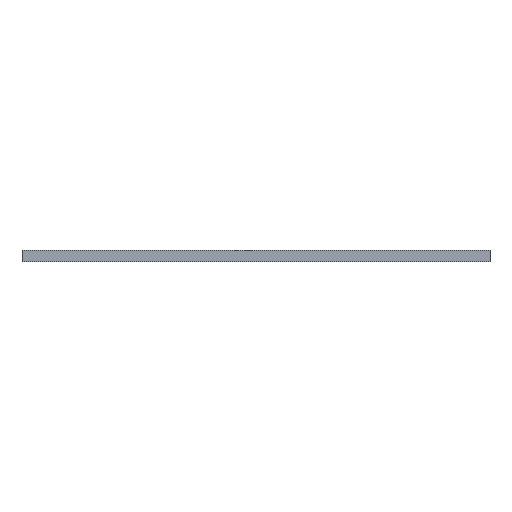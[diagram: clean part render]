
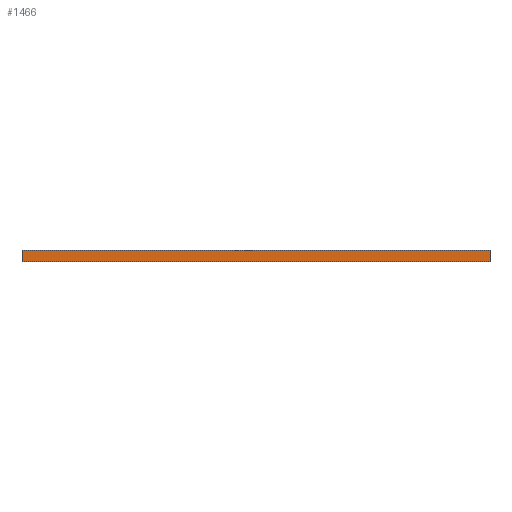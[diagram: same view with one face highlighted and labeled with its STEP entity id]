
A CAD part, left-side view. The second image highlights one B-rep face of the part: STEP entity #1466.
In plain terms, the highlighted planar face has unit normal (-1, 0, 0).
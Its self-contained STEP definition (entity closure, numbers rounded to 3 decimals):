
#133=PLANE('',#1667);
#202=FACE_OUTER_BOUND('',#275,.T.);
#275=EDGE_LOOP('',(#1210,#1211,#1212,#1213));
#450=LINE('',#2482,#521);
#451=LINE('',#2484,#522);
#452=LINE('',#2486,#523);
#453=LINE('',#2487,#524);
#521=VECTOR('',#2098,10.);
#522=VECTOR('',#2099,10.);
#523=VECTOR('',#2100,10.);
#524=VECTOR('',#2101,10.);
#769=VERTEX_POINT('',#2480);
#770=VERTEX_POINT('',#2481);
#771=VERTEX_POINT('',#2483);
#772=VERTEX_POINT('',#2485);
#954=EDGE_CURVE('',#769,#770,#450,.T.);
#955=EDGE_CURVE('',#770,#771,#451,.T.);
#956=EDGE_CURVE('',#772,#771,#452,.T.);
#957=EDGE_CURVE('',#769,#772,#453,.T.);
#1210=ORIENTED_EDGE('',*,*,#954,.T.);
#1211=ORIENTED_EDGE('',*,*,#955,.T.);
#1212=ORIENTED_EDGE('',*,*,#956,.F.);
#1213=ORIENTED_EDGE('',*,*,#957,.F.);
#1466=ADVANCED_FACE('',(#202),#133,.T.);
#1667=AXIS2_PLACEMENT_3D('',#2479,#2096,#2097);
#2096=DIRECTION('center_axis',(-1.,0.,0.));
#2097=DIRECTION('ref_axis',(0.,1.,0.));
#2098=DIRECTION('',(0.,1.,0.));
#2099=DIRECTION('',(0.,0.,-1.));
#2100=DIRECTION('',(0.,1.,0.));
#2101=DIRECTION('',(0.,0.,-1.));
#2479=CARTESIAN_POINT('Origin',(-108.,-100.,0.));
#2480=CARTESIAN_POINT('',(-108.,-100.,0.));
#2481=CARTESIAN_POINT('',(-108.,100.,0.));
#2482=CARTESIAN_POINT('',(-108.,-100.,0.));
#2483=CARTESIAN_POINT('',(-108.,100.,-5.));
#2484=CARTESIAN_POINT('',(-108.,100.,0.));
#2485=CARTESIAN_POINT('',(-108.,-100.,-5.));
#2486=CARTESIAN_POINT('',(-108.,-100.,-5.));
#2487=CARTESIAN_POINT('',(-108.,-100.,0.));
